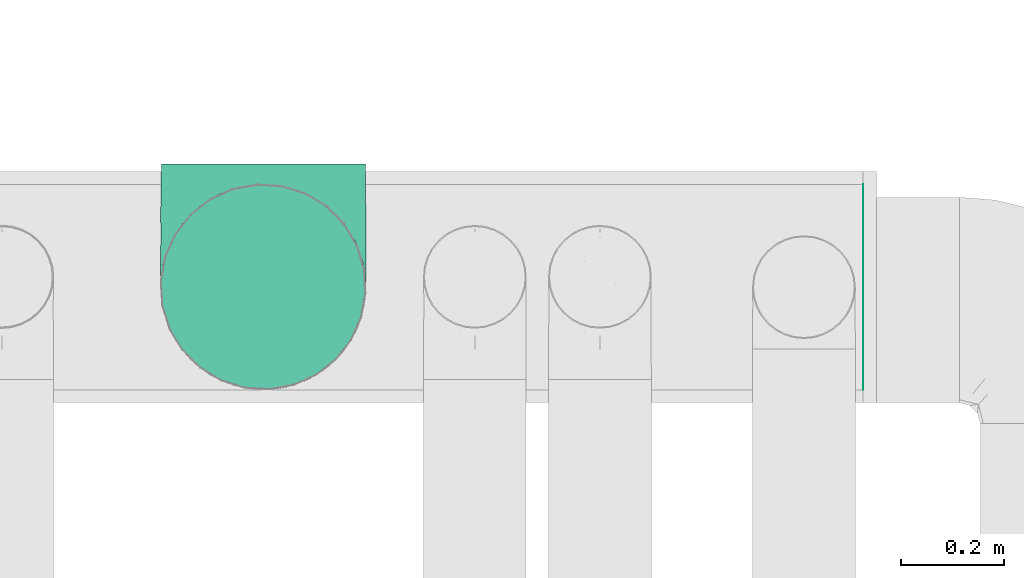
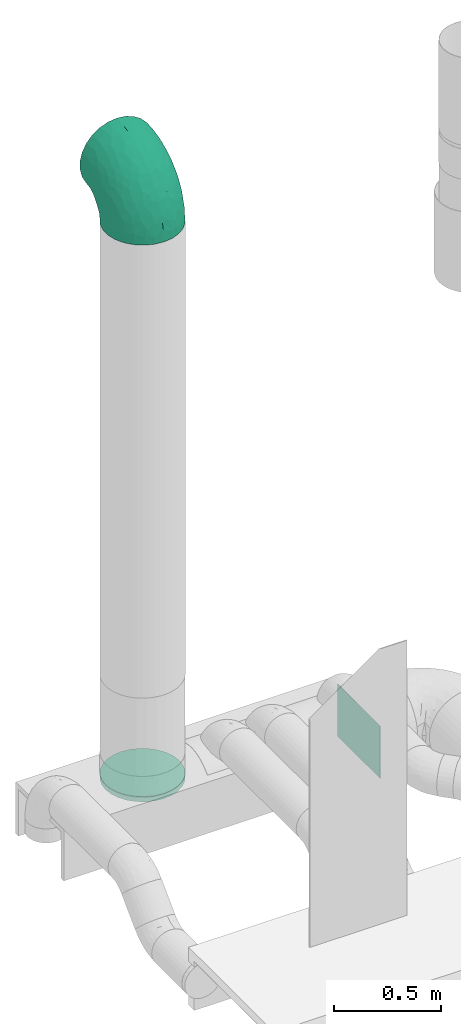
# One storey, part 8 of 9: 3 flow fittings.
"""IFC2X3 building model written with IfcOpenShell, lengths in millimetres."""

from ifc_helpers import new_model, entity, si_unit, converted_unit, derived_unit, direction, frame, origin_with_axes, place, context, subcontext, project, spatial, open_shell, surface_model, source, transform, mapped, type_object, element, save


model = new_model("IFC2X3")

# Units and contexts
model_context = context("Model", 3, precision=0.01, world=frame((0.0, 4.29681676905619e-09, 0.0)), true_north=direction((4.01073788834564e-13, 1.0)))
plan_context = context("Plan", 3, precision=0.01, world=frame((0.0, 4.29681676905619e-09, 0.0)), true_north=direction((4.01073788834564e-13, 1.0)))
body_context = subcontext(model_context, "Body", "Model", "MODEL_VIEW")
ifc_project = project(units=[converted_unit("PLANEANGLEUNIT", "DEGREE", entity("IfcPositiveLengthMeasure", 0.0174532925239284), si_unit("PLANEANGLEUNIT", "RADIAN"), dimensions=[0, 0, 0, 0, 0, 0, 0]), si_unit("AREAUNIT", "SQUARE_METRE"), si_unit("LENGTHUNIT", "METRE", prefix="MILLI"), si_unit("MASSUNIT", "GRAM", prefix="KILO"), si_unit("POWERUNIT", "WATT"), si_unit("PRESSUREUNIT", "PASCAL"), si_unit("FORCEUNIT", "NEWTON", prefix="KILO"), si_unit("ELECTRICVOLTAGEUNIT", "VOLT"), si_unit("ELECTRICCURRENTUNIT", "AMPERE"), si_unit("THERMODYNAMICTEMPERATUREUNIT", "DEGREE_CELSIUS"), si_unit("TIMEUNIT", "SECOND"), si_unit("VOLUMEUNIT", "CUBIC_METRE"), derived_unit("LINEARVELOCITYUNIT", [(si_unit("LENGTHUNIT", "METRE"), 1), (si_unit("TIMEUNIT", "SECOND"), -1)]), derived_unit("VOLUMETRICFLOWRATEUNIT", [(si_unit("VOLUMEUNIT", "CUBIC_METRE"), 1), (si_unit("TIMEUNIT", "SECOND"), -1)]), derived_unit("THERMALTRANSMITTANCEUNIT", [(si_unit("POWERUNIT", "WATT"), 1), (si_unit("THERMODYNAMICTEMPERATUREUNIT", "KELVIN"), -1), (si_unit("AREAUNIT", "SQUARE_METRE"), -1)]), derived_unit("SOUNDPRESSUREUNIT", [(si_unit("PRESSUREUNIT", "PASCAL"), 1)])], contexts=[model_context, plan_context])

# Site, building, storey
site_placement = place(None, frame((0.0, -4.29681676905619e-09, 0.0), z_axis=(0.0, 0.0, 1.0), x_axis=(1.0, 0.0, 0.0)))
site = spatial("IfcSite", under=ifc_project, at=site_placement, Name="ENGM", CompositionType="ELEMENT")
building_placement = place(site_placement, frame((0.0, 4.29681676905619e-09, 0.0), z_axis=(0.0, 0.0, 1.0), x_axis=(1.0, 0.0, 0.0)))
building = spatial("IfcBuilding", under=site, at=building_placement, Name="TH", CompositionType="ELEMENT")
storey_placement = place(building_placement, frame((0.0, 0.0, 205200.0), z_axis=(0.0, 0.0, 1.0), x_axis=(1.0, 0.0, 0.0)))
storey = spatial("IfcBuildingStorey", under=building, at=storey_placement, Name="Nivå D + 1,2 m", CompositionType="ELEMENT", Elevation=205200.0)

# Flow fittings
duct_fitting_type_1 = type_object("IfcDuctFittingType", Name="magicirc_elbow_short_001", PredefinedType="BEND")
shared_shape_1 = source(origin_with_axes(), body_context, "Body", "SurfaceModel", [
    surface_model("IfcShellBasedSurfaceModel", [(-239.99618, 113.61295, -164.59677), (-239.99618, 70.92098, -187.00325), (-239.99618, 24.10734, -198.54177), (-239.99618, -24.10734, -198.54177), (-239.99618, 194.18836, -47.86313), (-239.99618, 177.09121, -92.94464), (-239.99618, 149.70215, -132.62454), (-239.99618, -200.0, 0.0), (-239.99618, 200.0, 0.0), (-239.99618, -70.92098, -187.00325), (-239.99618, -113.61295, -164.59677), (-239.99618, -177.09121, -92.94464), (-239.99618, -149.70215, -132.62454), (-239.99618, -194.18836, -47.86313), (-239.99618, 177.09121, 92.94464), (-239.99618, 194.18836, 47.86313), (-239.99618, 149.70215, 132.62454), (-239.99618, 70.92098, 187.00325), (-239.99618, 113.61295, 164.59677), (-239.99618, -70.92098, 187.00325), (-239.99618, -177.09121, 92.94464), (-239.99618, -149.70215, 132.62454), (-239.99618, -194.18836, 47.86313), (-239.99618, -24.10734, 198.54177), (-239.99618, 24.10734, 198.54177), (-239.99618, -113.61295, 164.59677), (-24.10352, 239.99656, -198.54177), (-70.91716, 239.99731, -187.00325), (-113.60913, 239.998, -164.59677), (24.11116, 239.9958, -198.54177), (149.70597, 239.9938, 132.62454), (-149.69833, 239.99856, -132.62454), (-177.08739, 239.999, -92.94464), (200.00382, 239.993, 0.0), (113.61677, 239.99438, -164.59677), (70.9248, 239.99505, -187.00325), (149.70597, 239.9938, -132.62454), (177.09502, 239.99336, -92.94464), (194.19218, 239.99309, -47.86313), (-194.18455, 239.99927, -47.86313), (-199.99619, 239.99936, 0.0), (-194.18455, 239.99927, 47.86313), (-177.08739, 239.999, 92.94464), (-149.69833, 239.99856, 132.62454), (-113.60913, 239.998, 164.59677), (-70.91716, 239.99731, 187.00325), (113.61677, 239.99438, 164.59677), (177.09502, 239.99336, 92.94464), (194.19218, 239.99309, 47.86313), (-24.10352, 239.99656, 198.54177), (24.11116, 239.9958, 198.54177), (70.9248, 239.99505, 187.00325), (-196.74133, -191.45884, 50.10653), (-198.86729, -196.76312, 0.0), (-171.16572, -194.58298, 0.0), (118.68575, 0.92741, 59.1437), (141.95656, 48.6791, 70.42568), (123.41275, 55.24139, 109.01333), (-85.69739, 147.62525, 190.73638), (-116.87187, 199.9875, 166.67785), (-121.57183, 167.66015, 172.48965), (-104.03003, -178.46531, 0.0), (-133.81238, -183.40937, 37.14215), (-137.59787, -186.52413, 0.0), (-201.76454, 117.34786, 166.01697), (-128.6511, -105.10747, 157.99719), (-129.47156, -133.32872, 133.02586), (-90.82566, -120.5633, 132.05796), (-110.47383, 129.80242, 187.37141), (-147.23537, 149.38011, 166.82081), (-198.0041, -178.92549, 85.0295), (-181.04707, -147.98024, 129.47656), (84.96028, -31.68412, 79.39254), (66.61557, -22.24305, 115.2386), (54.21064, -52.50041, 97.06563), (176.12246, 157.1641, 77.71474), (147.40969, 184.38328, 130.70877), (153.91041, 117.43549, 101.1531), (-69.33488, 15.23705, 195.49461), (-36.72248, -22.35928, 177.63947), (-20.40608, 20.40638, 187.14359), (-126.64475, -42.30983, 189.4104), (-104.095, -81.44707, 167.6906), (-69.05404, -54.6283, 172.8413), (-214.90262, 183.19877, 91.38164), (-203.29549, 203.29873, 67.96709), (-187.13195, -110.74355, 163.83758), (-211.26054, 68.18171, 188.86761), (-239.99618, 92.26696, 175.80001), (-194.53754, 27.59668, 198.69768), (-147.80292, 100.44968, 186.30087), (-175.61564, 124.09874, 168.70491), (-79.21322, 211.33659, 184.71563), (-25.85753, 189.24023, 199.00477), (-79.13971, -141.0952, 99.22108), (-196.79073, 171.15979, 121.68193), (-212.86644, 160.76232, 124.84793), (-181.52339, 152.02104, 148.1446), (-219.99636, 205.35889, 0.0), (-58.83208, -88.41619, 147.49933), (92.27079, 239.99471, 175.80001), (116.22657, 203.42089, 161.41051), (-185.46659, -22.63632, 197.99658), (-204.01164, -62.89376, 189.13462), (-24.52666, 97.11572, 199.13879), (-49.56286, 133.39548, 198.8129), (-66.10414, 98.39367, 199.37936), (-30.34363, -106.38052, 113.19102), (104.82496, 25.52748, 111.43517), (-119.98114, 72.61514, 197.08265), (-156.96044, 218.9069, 127.21304), (167.1247, 87.63556, 45.74599), (183.4115, 133.80947, 37.14215), (-184.13291, 185.69005, 117.1643), (-182.96561, 214.5625, 92.05821), (191.46197, 196.73828, 50.10653), (144.42436, 31.67357, 33.11006), (68.61805, 186.04658, 186.08561), (196.76628, 198.86415, 0.0), (-19.07031, -59.99804, 149.75203), (178.92863, 198.00127, 85.0295), (140.24722, 148.73882, 131.09688), (-93.34154, -18.28754, 191.69998), (-89.08553, -167.97476, 44.47914), (-114.00422, -154.66625, 98.09855), (-157.16691, -176.11995, 77.71474), (101.17184, -31.235, 40.5377), (-205.35538, 219.99963, 0.0), (7.22193, -25.18359, 158.05898), (16.22989, 11.57484, 171.27943), (-156.8591, -75.63398, 180.375), (18.264, -72.61215, 112.30327), (13.43492, -107.23705, 62.79957), (53.59177, -73.10726, 64.77414), (-40.69952, 60.20181, 197.9712), (45.72329, -4.39363, 146.65739), (35.15028, -40.42581, 128.96428), (91.28631, 129.36214, 167.51205), (115.0919, 167.12239, 158.1022), (20.79648, 191.27652, 198.39267), (7.78317, 161.35906, 199.00153), (53.70395, 155.01674, 188.88404), (-67.66794, 172.20862, 192.34106), (-15.97913, 141.15499, 199.94107), (-131.31339, 13.76042, 199.69779), (-145.52753, 50.31926, 198.01664), (-164.75373, 31.54072, 199.1539), (-44.76656, -139.99169, 70.37371), (-164.48854, 172.12559, 144.31235), (45.64408, 86.35444, 181.34645), (66.6846, 112.12128, 177.44151), (34.9393, 125.81274, 191.49449), (120.56474, 90.82373, 132.05796), (-182.60154, 70.05072, 190.59151), (-106.26374, 37.23505, 199.97905), (5.4666, 57.2161, 188.78137), (12.62339, 97.22238, 193.60364), (141.56979, 81.82148, 100.26241), (178.46696, 104.0272, 0.0), (115.96883, -18.62891, 0.0), (134.00665, 10.80545, 0.0), (-159.14521, -4.40893, 199.23864), (75.8443, 19.69114, 137.65923), (92.95568, 47.87348, 138.37022), (73.90445, 68.30473, 161.63472), (48.02373, 36.9104, 165.41289), (-152.35565, 189.99338, 143.70864), (-72.13614, -165.25456, 0.0), (-40.24223, -152.04383, 0.0), (-31.59575, -144.44117, 32.79035), (186.52633, 137.59491, 0.0), (194.58571, 171.16261, 0.0), (152.04446, 40.23981, 0.0), (165.2557, 72.13351, 0.0), (-1.76337, -126.08456, 35.7691), (-16.00912, -123.42705, 71.17476), (44.8777, -93.5493, 0.0), (18.62706, -115.96912, 0.0), (-82.84258, 62.8591, 199.97446), (78.64556, -54.27518, 49.64664), (93.54858, -44.87918, 0.0), (-10.80758, -134.00647, 0.0), (71.12833, -71.12946, 0.0), (-218.90441, 156.96393, -127.21304), (-199.98565, 116.87505, -166.67785), (58.90231, -68.83028, -63.09578), (15.32939, -106.16429, -62.02084), (-129.36361, -91.28424, -167.51207), (-167.12425, -115.08924, -158.1022), (-186.04769, -68.61508, -186.08561), (-94.46686, 110.90943, -194.76337), (-129.80068, 110.47589, -187.37141), (-141.76941, 147.59969, -170.13193), (-87.63822, -167.1233, -45.74599), (-48.68136, -141.95579, -70.42569), (-31.67587, -144.42386, -33.11006), (-203.29549, 203.29873, -67.96709), (22.96707, 35.56759, -177.0201), (-14.27573, 70.09126, -195.42742), (18.69688, 93.38297, -191.60026), (-13.86028, -127.36247, -58.0685), (-29.48767, -107.88222, -110.6318), (-68.17836, 211.26161, -188.8676), (-117.34465, 201.76641, -166.01697), (-59.10775, 32.13069, -196.81433), (-97.11536, 24.5282, -199.13881), (-90.55469, 60.71567, -199.89107), (-214.90262, 183.19877, -91.38164), (54.6294, 69.05315, -172.8413), (98.27205, 42.78134, -130.49536), (57.07948, 11.20348, -147.59185), (-184.90105, 185.92575, -116.16986), (-189.99096, 152.35868, -143.70864), (-164.7428, 127.39519, -170.48863), (-196.74133, -191.45884, -50.10653), (102.9795, -25.21384, -50.35994), (-198.0041, -178.92549, -85.0295), (-184.38562, -147.40675, -130.70877), (-20.40608, 20.40638, -187.14359), (-203.42274, -116.22334, -161.41051), (-239.99618, -92.26696, -175.80001), (-133.81238, -183.40937, -37.14215), (-157.16691, -176.11995, -77.71474), (-117.43795, -153.90856, -101.1531), (42.31185, 126.64406, -189.4104), (81.44873, 104.09369, -167.6906), (-191.27686, -20.79342, -198.39267), (147.98312, 181.04471, -129.47655), (-129.30202, 59.74502, -197.96332), (-155.13023, 92.66774, -187.35986), (154.66807, 114.00176, -98.09854), (176.12246, 157.1641, -77.71474), (-148.74106, -140.24485, -131.09689), (-160.49716, 212.94414, -125.12706), (-152.01816, 181.5258, -148.1446), (2.78944, -30.7733, -157.17282), (62.89701, 204.01064, -189.13462), (22.63929, 185.46622, -197.99658), (-189.23983, 25.86053, -199.00477), (-27.5936, 194.53798, -198.69768), (-100.44735, 147.80451, -186.30087), (-124.09595, 175.61761, -168.70491), (-182.99592, 214.60769, -91.9693), (110.74653, 187.13018, -163.83758), (-211.33534, 79.21657, -184.71563), (75.63649, 156.85789, -180.375), (133.33078, 129.46942, -133.02586), (120.56474, 90.82373, -132.05796), (105.10952, 128.64941, -157.99717), (82.80226, -53.88906, -37.02606), (-92.26315, 239.99765, -175.80001), (123.66627, 51.7975, -106.19746), (139.9924, 44.76432, -70.3737), (117.64848, 16.01201, -82.93121), (128.17408, 6.72842, -40.53258), (178.92863, 198.00127, -85.0295), (183.4115, 133.80947, -37.14215), (167.97617, 89.08285, -44.47914), (191.46197, 196.73828, -50.10653), (142.54406, 78.96317, -96.72676), (-97.56549, -63.71139, -175.75319), (-84.70252, -93.5566, -153.72915), (-144.36074, 26.22276, -199.9157), (-172.20755, 67.67068, -192.34106), (-156.61268, -52.11718, -189.55604), (34.63017, -16.71599, -146.70809), (52.55947, -35.05281, -117.90426), (-36.70321, 165.46261, -198.61775), (-70.04782, 182.60263, -190.59151), (154.76352, 54.99999, -40.00097), (-90.82566, -120.5633, -132.05796), (-57.62759, 136.49878, -197.69026), (-51.22391, -22.76939, -181.71374), (-155.33434, -3.83541, -199.17792), (-81.82374, -141.56849, -100.26241), (-58.1296, -124.31853, -109.76161), (3.06695, 160.45525, -199.37904), (-125.81331, -34.93729, -191.49449), (-87.32287, -32.19798, -186.55526), (-114.50614, -4.03106, -197.01826), (-57.25283, -70.84381, -159.56223), (-14.81902, -65.35669, -143.41025), (-13.75834, 131.31357, -199.69779), (-168.8367, 164.28541, -146.55481), (18.264, -72.61215, -112.30327), (79.70845, -39.92974, -76.14586), (90.81709, -6.61076, -101.00863), (-32.52697, 105.18691, -199.8622), (-62.8578, 82.84356, -199.97446)], [open_shell([[[0, 1, 2]], [[0, 2, 3]], [[0, 4, 5]], [[6, 0, 5]], [[0, 7, 8]], [[3, 9, 0]], [[9, 10, 0]], [[11, 10, 12]], [[11, 13, 7]], [[0, 10, 11]], [[11, 7, 0]], [[8, 4, 0]], [[14, 15, 8]], [[16, 14, 8]], [[17, 18, 16]], [[16, 7, 17]], [[7, 19, 17]], [[20, 21, 22]], [[21, 7, 22]], [[19, 23, 24]], [[21, 25, 7]], [[7, 25, 19]], [[19, 24, 17]], [[7, 16, 8]], [[26, 27, 28]], [[29, 26, 28]], [[30, 31, 32]], [[28, 31, 30]], [[30, 33, 28]], [[29, 34, 35]], [[29, 28, 34]], [[36, 34, 37]], [[33, 38, 37]], [[34, 33, 37]], [[28, 33, 34]], [[39, 30, 32]], [[40, 41, 42]], [[40, 42, 43]], [[43, 44, 45]], [[43, 45, 40]], [[40, 45, 46]], [[33, 47, 48]], [[30, 47, 33]], [[49, 50, 51]], [[46, 45, 51]], [[46, 30, 40]], [[51, 45, 49]], [[30, 39, 40]], [[52, 53, 54]], [[55, 56, 57]], [[58, 59, 60]], [[52, 22, 53]], [[61, 62, 63]], [[18, 64, 16]], [[65, 66, 67]], [[68, 60, 69]], [[20, 70, 21]], [[70, 71, 21]], [[72, 73, 74]], [[21, 71, 25]], [[75, 76, 77]], [[22, 52, 20]], [[78, 79, 80]], [[81, 82, 83]], [[15, 84, 85]], [[19, 25, 86]], [[87, 88, 17]], [[24, 89, 17]], [[64, 90, 91]], [[92, 93, 45]], [[25, 71, 86]], [[66, 94, 67]], [[18, 87, 64]], [[95, 96, 97]], [[85, 8, 15]], [[8, 85, 98]], [[82, 99, 83]], [[100, 51, 101]], [[89, 24, 102]], [[19, 103, 23]], [[14, 84, 15]], [[104, 105, 106]], [[67, 94, 107]], [[55, 108, 72]], [[109, 68, 90]], [[110, 43, 42]], [[75, 111, 112]], [[113, 114, 85]], [[112, 115, 75]], [[116, 111, 56]], [[30, 46, 76]], [[51, 117, 101]], [[115, 118, 48]], [[99, 119, 83]], [[120, 30, 76]], [[115, 48, 47]], [[76, 101, 121]], [[100, 101, 46]], [[79, 78, 122]], [[59, 92, 44]], [[123, 124, 125]], [[72, 126, 55]], [[103, 102, 23]], [[40, 85, 41]], [[85, 40, 127]], [[85, 127, 98]], [[45, 93, 49]], [[51, 50, 117]], [[128, 129, 80]], [[85, 84, 113]], [[130, 81, 102]], [[59, 43, 110]], [[131, 132, 133]], [[106, 134, 104]], [[43, 59, 44]], [[41, 85, 114]], [[135, 128, 136]], [[137, 138, 117]], [[139, 117, 50]], [[23, 102, 24]], [[139, 140, 141]], [[92, 45, 44]], [[124, 71, 125]], [[142, 105, 143]], [[67, 82, 65]], [[130, 82, 81]], [[144, 145, 146]], [[58, 60, 68]], [[92, 59, 142]], [[125, 62, 123]], [[123, 147, 94]], [[148, 113, 95]], [[107, 132, 131]], [[50, 49, 139]], [[149, 150, 151]], [[121, 152, 77]], [[120, 76, 75]], [[90, 64, 153]], [[64, 91, 96]], [[154, 145, 144]], [[90, 68, 69]], [[154, 144, 122]], [[80, 129, 155]], [[104, 156, 143]], [[104, 143, 105]], [[157, 77, 152]], [[112, 111, 158]], [[57, 56, 157]], [[55, 159, 160]], [[71, 124, 66]], [[103, 86, 130]], [[146, 161, 144]], [[18, 88, 87]], [[49, 93, 139]], [[93, 143, 140]], [[138, 137, 152]], [[108, 162, 73]], [[162, 163, 164]], [[79, 128, 80]], [[156, 104, 155]], [[164, 165, 162]], [[150, 141, 151]], [[164, 152, 137]], [[122, 81, 83]], [[81, 122, 161]], [[96, 84, 14]], [[96, 95, 84]], [[148, 97, 69]], [[166, 110, 114]], [[166, 114, 113]], [[41, 114, 42]], [[14, 16, 96]], [[64, 96, 16]], [[52, 54, 63]], [[70, 20, 52]], [[62, 61, 123]], [[63, 62, 52]], [[52, 62, 125]], [[123, 61, 167]], [[123, 168, 169]], [[47, 120, 115]], [[115, 170, 171]], [[115, 112, 170]], [[158, 170, 112]], [[111, 75, 77]], [[111, 77, 157]], [[111, 172, 173]], [[65, 82, 130]], [[99, 67, 107]], [[169, 174, 175]], [[119, 99, 107]], [[175, 147, 169]], [[132, 176, 133]], [[174, 177, 132]], [[116, 160, 172]], [[67, 99, 82]], [[119, 107, 131]], [[136, 128, 119]], [[79, 83, 119]], [[128, 79, 119]], [[134, 78, 80]], [[154, 78, 178]], [[144, 161, 122]], [[136, 119, 131]], [[128, 135, 129]], [[74, 131, 133]], [[73, 135, 136]], [[74, 73, 136]], [[108, 73, 72]], [[131, 74, 136]], [[74, 133, 179]], [[135, 165, 129]], [[155, 104, 134]], [[165, 155, 129]], [[149, 165, 164]], [[162, 165, 135]], [[149, 151, 156]], [[73, 162, 135]], [[162, 108, 163]], [[149, 155, 165]], [[139, 93, 140]], [[151, 143, 156]], [[142, 143, 93]], [[149, 156, 155]], [[150, 164, 137]], [[164, 150, 149]], [[141, 137, 117]], [[137, 141, 150]], [[139, 141, 117]], [[142, 58, 105]], [[106, 178, 134]], [[58, 106, 105]], [[68, 178, 106]], [[59, 58, 142]], [[106, 58, 68]], [[59, 166, 60]], [[166, 113, 148]], [[166, 69, 60]], [[69, 97, 91]], [[78, 134, 178]], [[155, 134, 80]], [[130, 86, 65]], [[66, 124, 94]], [[65, 86, 66]], [[71, 66, 86]], [[72, 179, 126]], [[111, 116, 172]], [[79, 122, 83]], [[154, 122, 78]], [[52, 125, 70]], [[70, 125, 71]], [[30, 120, 47]], [[75, 115, 120]], [[57, 163, 108]], [[152, 164, 163]], [[143, 151, 140]], [[141, 140, 151]], [[178, 109, 154]], [[145, 90, 153]], [[145, 154, 109]], [[153, 87, 146]], [[68, 109, 178]], [[145, 109, 90]], [[153, 146, 145]], [[161, 89, 102]], [[89, 161, 146]], [[81, 161, 102]], [[179, 180, 126]], [[55, 126, 159]], [[55, 160, 116]], [[55, 116, 56]], [[22, 7, 53]], [[118, 115, 171]], [[118, 33, 48]], [[93, 92, 142]], [[86, 103, 19]], [[102, 103, 130]], [[114, 110, 42]], [[59, 110, 166]], [[101, 117, 138]], [[121, 101, 138]], [[76, 46, 101]], [[153, 64, 87]], [[17, 89, 87]], [[146, 87, 89]], [[123, 94, 124]], [[107, 94, 147]], [[169, 168, 181]], [[174, 169, 181]], [[123, 169, 147]], [[177, 174, 181]], [[174, 132, 175]], [[132, 107, 175]], [[107, 147, 175]], [[69, 91, 90]], [[96, 91, 97]], [[152, 121, 138]], [[77, 76, 121]], [[57, 157, 152]], [[111, 157, 56]], [[163, 57, 152]], [[57, 108, 55]], [[148, 95, 97]], [[84, 95, 113]], [[176, 132, 177]], [[168, 123, 167]], [[173, 158, 111]], [[176, 182, 133]], [[69, 166, 148]], [[72, 74, 179]], [[159, 126, 180]], [[133, 182, 179]], [[180, 179, 182]], [[183, 184, 6]], [[185, 176, 186]], [[187, 188, 189]], [[190, 191, 192]], [[193, 194, 195]], [[183, 6, 5]], [[98, 196, 8]], [[197, 198, 199]], [[186, 200, 201]], [[202, 203, 28]], [[196, 4, 8]], [[204, 205, 206]], [[6, 184, 0]], [[207, 5, 4]], [[208, 209, 210]], [[211, 212, 207]], [[38, 33, 118]], [[191, 213, 192]], [[214, 53, 13]], [[215, 159, 180]], [[13, 11, 214]], [[28, 203, 31]], [[216, 12, 217]], [[198, 197, 218]], [[9, 189, 219]], [[220, 219, 10]], [[221, 214, 222]], [[221, 222, 193]], [[222, 217, 223]], [[224, 225, 208]], [[189, 3, 226]], [[217, 12, 10]], [[36, 227, 34]], [[191, 228, 229]], [[196, 98, 127]], [[230, 227, 231]], [[40, 39, 196]], [[217, 219, 232]], [[211, 233, 234]], [[235, 218, 197]], [[236, 237, 29]], [[196, 207, 4]], [[1, 238, 2]], [[237, 239, 26]], [[203, 240, 241]], [[32, 242, 39]], [[34, 227, 243]], [[35, 236, 29]], [[220, 9, 219]], [[0, 244, 1]], [[245, 224, 237]], [[26, 239, 27]], [[29, 237, 26]], [[34, 243, 35]], [[246, 247, 248]], [[182, 249, 180]], [[27, 202, 250]], [[251, 252, 253]], [[215, 254, 159]], [[244, 238, 1]], [[255, 36, 37]], [[255, 227, 36]], [[170, 158, 256]], [[257, 230, 231]], [[118, 171, 258]], [[38, 118, 258]], [[251, 259, 252]], [[206, 205, 228]], [[9, 3, 189]], [[37, 38, 258]], [[187, 260, 261]], [[211, 242, 233]], [[262, 238, 263]], [[40, 196, 127]], [[264, 189, 226]], [[265, 210, 266]], [[247, 225, 248]], [[245, 225, 224]], [[267, 268, 202]], [[229, 213, 191]], [[244, 184, 263]], [[231, 256, 257]], [[269, 259, 257]], [[269, 160, 254]], [[253, 209, 251]], [[3, 2, 226]], [[188, 187, 270]], [[232, 270, 223]], [[216, 217, 222]], [[240, 203, 268]], [[203, 241, 233]], [[268, 267, 271]], [[190, 192, 240]], [[271, 240, 268]], [[272, 218, 235]], [[262, 273, 238]], [[205, 262, 228]], [[274, 223, 270]], [[221, 193, 61]], [[274, 275, 194]], [[195, 200, 181]], [[227, 230, 246]], [[236, 243, 245]], [[276, 239, 237]], [[28, 250, 202]], [[2, 238, 226]], [[226, 238, 273]], [[264, 187, 189]], [[260, 277, 278]], [[278, 279, 205]], [[280, 281, 201]], [[199, 224, 208]], [[276, 224, 282]], [[211, 207, 196]], [[183, 207, 212]], [[242, 211, 196]], [[211, 234, 283]], [[39, 242, 196]], [[242, 32, 233]], [[32, 31, 233]], [[203, 233, 31]], [[11, 216, 214]], [[214, 63, 54]], [[214, 221, 63]], [[61, 63, 221]], [[193, 222, 223]], [[193, 223, 274]], [[193, 168, 167]], [[258, 171, 170]], [[255, 37, 258]], [[256, 158, 257]], [[170, 256, 258]], [[258, 256, 231]], [[257, 158, 173]], [[257, 173, 269]], [[275, 261, 201]], [[186, 201, 284]], [[186, 284, 185]], [[193, 195, 168]], [[266, 185, 284]], [[249, 182, 185]], [[248, 225, 245]], [[209, 225, 247]], [[249, 285, 215]], [[249, 215, 180]], [[254, 253, 252]], [[253, 215, 286]], [[254, 252, 269]], [[215, 253, 254]], [[253, 286, 209]], [[210, 209, 286]], [[225, 209, 208]], [[266, 210, 286]], [[197, 208, 210]], [[209, 247, 251]], [[247, 246, 259]], [[247, 259, 251]], [[257, 259, 230]], [[266, 286, 285]], [[266, 284, 235]], [[284, 281, 235]], [[235, 281, 272]], [[279, 278, 277]], [[204, 272, 205]], [[245, 243, 248]], [[160, 159, 254]], [[246, 230, 259]], [[248, 243, 246]], [[227, 246, 243]], [[197, 210, 265]], [[204, 198, 218]], [[287, 288, 271]], [[282, 224, 199]], [[197, 199, 208]], [[199, 198, 287]], [[12, 216, 11]], [[222, 214, 216]], [[258, 231, 255]], [[255, 231, 227]], [[228, 262, 263]], [[279, 262, 205]], [[229, 228, 263]], [[191, 190, 206]], [[191, 206, 228]], [[288, 198, 204]], [[288, 204, 206]], [[272, 204, 218]], [[263, 184, 229]], [[213, 184, 212]], [[184, 213, 229]], [[192, 283, 234]], [[283, 213, 212]], [[192, 234, 241]], [[213, 283, 192]], [[211, 283, 212]], [[278, 205, 272]], [[273, 279, 277]], [[272, 280, 278]], [[260, 278, 280]], [[261, 260, 280]], [[264, 260, 187]], [[201, 261, 280]], [[187, 261, 270]], [[279, 273, 262]], [[273, 277, 264]], [[53, 214, 54]], [[53, 7, 13]], [[184, 244, 0]], [[238, 244, 263]], [[243, 236, 35]], [[237, 236, 245]], [[207, 183, 5]], [[184, 183, 212]], [[219, 189, 188]], [[232, 219, 188]], [[217, 10, 219]], [[239, 267, 202]], [[239, 202, 27]], [[202, 268, 203]], [[287, 271, 282]], [[190, 271, 288]], [[192, 241, 240]], [[233, 241, 234]], [[271, 190, 240]], [[206, 190, 288]], [[270, 232, 188]], [[223, 217, 232]], [[275, 274, 270]], [[193, 274, 194]], [[261, 275, 270]], [[275, 201, 200]], [[200, 177, 181]], [[181, 168, 195]], [[200, 195, 194]], [[200, 194, 275]], [[200, 186, 177]], [[224, 276, 237]], [[267, 276, 282]], [[276, 267, 239]], [[271, 267, 282]], [[273, 264, 226]], [[264, 277, 260]], [[269, 172, 160]], [[167, 61, 193]], [[269, 173, 172]], [[259, 269, 252]], [[176, 185, 182]], [[176, 177, 186]], [[285, 249, 185]], [[266, 285, 185]], [[286, 215, 285]], [[266, 235, 265]], [[197, 265, 235]], [[201, 281, 284]], [[272, 281, 280]], [[199, 287, 282]], [[288, 287, 198]]])]),
])
flow_fitting_1_placement = place(storey_placement, frame((895666.49216, 480797.12038, 7677.83936000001), z_axis=(-1.0, 0.0, 0.0), x_axis=(0.0, 0.0, 1.0)))
element("IfcFlowFitting", 1, at=flow_fitting_1_placement, inside=storey, type_object=duct_fitting_type_1, Name="magicirc_elbow_short_001", context=body_context, shape_type="MappedRepresentation", body=[
    mapped(shared_shape_1, transform((0.0, 0.0, 0.0), scale=1.0)),
])
duct_fitting_type_2 = type_object("IfcDuctFittingType", Name="magicirc_tapoutlet_001", PredefinedType="CONNECTOR")
shared_shape_2 = source(origin_with_axes(), body_context, "Body", "SurfaceModel", [
    surface_model("IfcShellBasedSurfaceModel", [(-6.096, -180.19378, -86.77674), (-6.096, -194.98559, -44.50419), (-6.096, -200.0, 0.0), (-6.096, -124.69796, -156.36629), (-6.096, -156.36629, -124.69796), (-6.096, 200.0, 0.0), (0.0, 200.0, 0.0), (0.0, 194.98559, -44.50419), (-6.096, 180.19378, -86.77674), (-6.096, 194.98559, -44.50419), (0.0, 180.19378, -86.77674), (0.0, -194.98559, -44.50419), (0.0, -200.0, 0.0), (0.0, -180.19378, -86.77674), (-6.096, 194.98559, 44.50419), (-6.096, 0.0, -200.0), (-6.096, -44.50419, -194.98559), (-6.096, -86.77674, -180.19378), (-6.096, 156.36629, -124.69796), (-6.096, 86.77674, -180.19378), (-6.096, 44.50419, -194.98559), (-6.096, 124.69796, -156.36629), (-6.096, -194.98559, 44.50419), (-6.096, -180.19378, 86.77674), (-6.096, -156.36629, 124.69796), (-6.096, -124.69796, 156.36629), (-6.096, -86.77674, 180.19378), (-6.096, -44.50419, 194.98559), (-6.096, 156.36629, 124.69796), (-6.096, 180.19378, 86.77674), (-6.096, 124.69796, 156.36629), (-6.096, 86.77674, 180.19378), (-6.096, 44.50419, 194.98559), (-6.096, 0.0, 200.0), (0.0, -44.50419, 194.98559), (0.0, 0.0, 200.0), (0.0, -86.77674, 180.19378), (0.0, -124.69796, 156.36629), (0.0, -156.36629, 124.69796), (0.0, -180.19378, 86.77674), (0.0, -194.98559, 44.50419), (0.0, -156.36629, -124.69796), (0.0, -124.69796, -156.36629), (0.0, -86.77674, -180.19378), (0.0, -44.50419, -194.98559), (0.0, 0.0, -200.0), (0.0, 44.50419, -194.98559), (0.0, 86.77674, -180.19378), (0.0, 124.69796, -156.36629), (0.0, 156.36629, -124.69796), (0.0, 194.98559, 44.50419), (0.0, 180.19378, 86.77674), (0.0, 156.36629, 124.69796), (0.0, 124.69796, 156.36629), (0.0, 86.77674, 180.19378), (0.0, 44.50419, 194.98559), (20.0, 0.0, -200.0), (20.0, 44.50419, -194.98559), (20.0, -44.50419, -194.98559), (20.0, -194.98559, 44.50419), (20.0, -86.77674, -180.19378), (20.0, -180.19378, -86.77674), (20.0, -156.36629, -124.69796), (20.0, -124.69796, -156.36629), (20.0, 200.0, 0.0), (20.0, 194.98559, 44.50419), (20.0, 124.69796, -156.36629), (20.0, 86.77674, -180.19378), (20.0, 156.36629, -124.69796), (20.0, 180.19378, -86.77674), (20.0, 194.98559, -44.50419), (20.0, -194.98559, -44.50419), (20.0, -180.19378, 86.77674), (20.0, -156.36629, 124.69796), (20.0, -86.77674, 180.19378), (20.0, -124.69796, 156.36629), (20.0, -44.50419, 194.98559), (20.0, 0.0, 200.0), (20.0, 156.36629, 124.69796), (20.0, 180.19378, 86.77674), (20.0, 86.77674, 180.19378), (20.0, 44.50419, 194.98559), (20.0, 124.69796, 156.36629), (20.0, -200.0, 0.0)], [open_shell([[[0, 1, 2]], [[2, 3, 4]], [[5, 6, 7]], [[8, 9, 10]], [[11, 12, 2]], [[13, 1, 0]], [[9, 8, 14]], [[15, 16, 17]], [[2, 15, 17]], [[4, 0, 2]], [[2, 17, 3]], [[18, 15, 14]], [[15, 19, 20]], [[15, 21, 19]], [[21, 15, 18]], [[18, 14, 8]], [[9, 14, 5]], [[2, 22, 23]], [[24, 15, 23]], [[24, 25, 26]], [[27, 15, 26]], [[15, 24, 26]], [[15, 27, 28]], [[28, 29, 15]], [[14, 15, 29]], [[28, 27, 30]], [[30, 27, 31]], [[32, 31, 27]], [[33, 32, 27]], [[15, 2, 23]], [[34, 35, 33]], [[27, 36, 34]], [[36, 26, 37]], [[27, 34, 33]], [[36, 27, 26]], [[37, 26, 25]], [[25, 38, 37]], [[39, 38, 24]], [[23, 40, 39]], [[40, 22, 12]], [[23, 39, 24]], [[40, 23, 22]], [[12, 22, 2]], [[25, 24, 38]], [[1, 13, 11]], [[13, 0, 41]], [[1, 11, 2]], [[41, 0, 4]], [[4, 42, 41]], [[3, 43, 42]], [[16, 44, 43]], [[45, 44, 15]], [[17, 43, 3]], [[16, 43, 17]], [[16, 15, 44]], [[4, 3, 42]], [[46, 45, 15]], [[20, 47, 46]], [[47, 19, 48]], [[20, 46, 15]], [[47, 20, 19]], [[48, 19, 21]], [[21, 49, 48]], [[18, 10, 49]], [[9, 7, 10]], [[8, 10, 18]], [[7, 9, 5]], [[21, 18, 49]], [[50, 6, 5]], [[14, 51, 50]], [[51, 29, 52]], [[14, 50, 5]], [[51, 14, 29]], [[52, 29, 28]], [[28, 53, 52]], [[54, 53, 30]], [[55, 54, 31]], [[35, 55, 32]], [[31, 54, 30]], [[55, 31, 32]], [[35, 32, 33]], [[28, 30, 53]], [[17, 3, 2]], [[25, 26, 15]], [[15, 26, 27]], [[24, 25, 15]], [[27, 31, 30]], [[2, 23, 15]], [[56, 57, 58]], [[58, 59, 60]], [[59, 61, 62]], [[62, 63, 59]], [[63, 60, 59]], [[58, 64, 65]], [[66, 64, 67]], [[58, 57, 67]], [[64, 68, 69]], [[69, 70, 64]], [[64, 66, 68]], [[67, 64, 58]], [[59, 71, 61]], [[58, 72, 59]], [[58, 73, 72]], [[74, 75, 73]], [[74, 58, 76]], [[74, 73, 58]], [[76, 58, 77]], [[78, 77, 79]], [[58, 65, 79]], [[80, 81, 77]], [[77, 82, 80]], [[78, 82, 77]], [[58, 79, 77]], [[83, 71, 59]], [[76, 77, 35]], [[34, 74, 76]], [[74, 36, 75]], [[34, 76, 35]], [[74, 34, 36]], [[75, 36, 37]], [[37, 73, 75]], [[72, 73, 38]], [[39, 59, 72]], [[59, 40, 83]], [[39, 72, 38]], [[59, 39, 40]], [[83, 40, 12]], [[37, 38, 73]], [[71, 83, 12]], [[11, 61, 71]], [[61, 13, 62]], [[11, 71, 12]], [[61, 11, 13]], [[62, 13, 41]], [[41, 63, 62]], [[42, 60, 63]], [[44, 58, 60]], [[56, 58, 45]], [[43, 60, 42]], [[60, 43, 44]], [[58, 44, 45]], [[41, 42, 63]], [[57, 56, 45]], [[46, 67, 57]], [[67, 47, 66]], [[46, 57, 45]], [[67, 46, 47]], [[66, 47, 48]], [[48, 68, 66]], [[49, 69, 68]], [[7, 64, 70]], [[7, 70, 69]], [[10, 69, 49]], [[64, 7, 6]], [[10, 7, 69]], [[48, 49, 68]], [[65, 64, 6]], [[50, 79, 65]], [[79, 51, 78]], [[50, 65, 6]], [[79, 50, 51]], [[78, 51, 52]], [[52, 82, 78]], [[80, 82, 53]], [[54, 81, 80]], [[81, 55, 77]], [[54, 80, 53]], [[81, 54, 55]], [[77, 55, 35]], [[52, 53, 82]], [[59, 62, 60]], [[62, 63, 60]]])]),
])
flow_fitting_2_placement = place(storey_placement, frame((895666.49216, 480797.12038, 4266.87078), z_axis=(1.0, 0.0, 0.0), x_axis=(0.0, 0.0, 1.0)))
element("IfcFlowFitting", 2, at=flow_fitting_2_placement, inside=storey, type_object=duct_fitting_type_2, Name="magicirc_tapoutlet_001", context=body_context, shape_type="MappedRepresentation", body=[
    mapped(shared_shape_2, transform((0.0, 0.0, 0.0), scale=1.0)),
])
duct_fitting_type_3 = type_object("IfcDuctFittingType", Name="LEPR", PredefinedType="OBSTRUCTION")
shared_shape_3 = source(origin_with_axes(), body_context, "Body", "SurfaceModel", [
    surface_model("IfcShellBasedSurfaceModel", [(0.0, 200.0, 150.0), (0.0, 200.0, -150.0), (0.0, -200.0, -150.0), (0.0, -200.0, 150.0), (0.8, -200.0, -150.0), (0.8, 200.0, -150.0), (0.8, 200.0, 150.0), (0.8, -200.0, 150.0)], [open_shell([[[0, 1, 2]], [[2, 3, 0]], [[4, 5, 6]], [[6, 7, 4]], [[1, 0, 6]], [[6, 5, 1]], [[2, 1, 5]], [[5, 4, 2]], [[3, 2, 4]], [[4, 7, 3]], [[0, 3, 7]], [[7, 6, 0]]])]),
])
flow_fitting_3_placement = place(storey_placement, frame((896833.77362, 480797.12038, 4116.87078), z_axis=(0.0, 0.0, 1.0), x_axis=(1.0, 0.0, 0.0)))
element("IfcFlowFitting", 3, at=flow_fitting_3_placement, inside=storey, type_object=duct_fitting_type_3, Name="LEPR", context=body_context, shape_type="MappedRepresentation", body=[
    mapped(shared_shape_3, transform((0.0, 0.0, 0.0), scale=1.0)),
])

save(model, "model.ifc")
